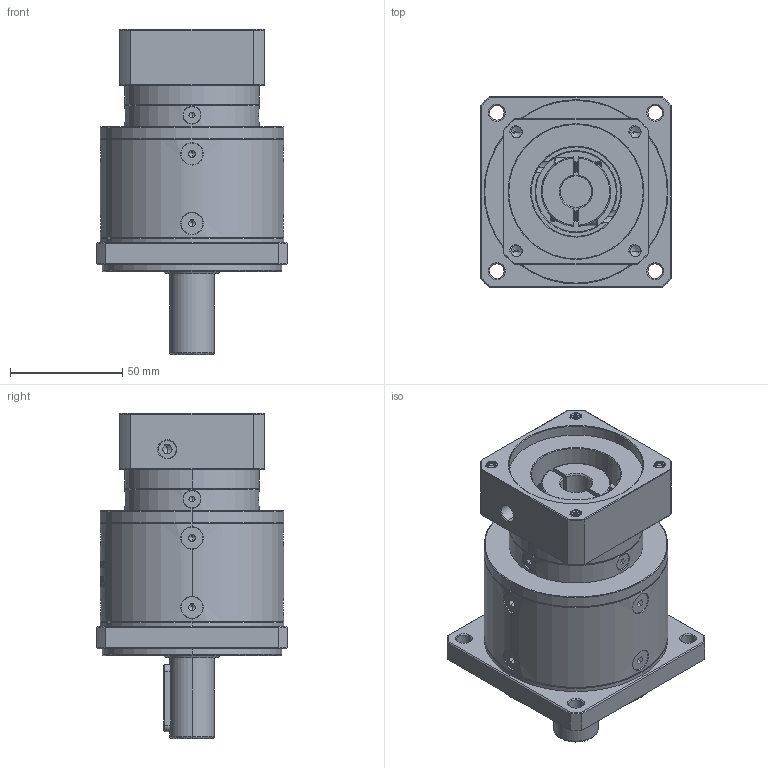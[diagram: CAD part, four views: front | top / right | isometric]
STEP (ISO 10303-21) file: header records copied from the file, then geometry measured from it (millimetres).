
FILE_DESCRIPTION (( 'STEP AP214' ), '1' );
FILE_NAME ('ZF80-D20-L2-14-60-75-M6.step', '2022-05-08T09:23:26', ( '' ), ( 'Microsoft' ), 'SwSTEP 2.0', 'SolidWorks 2016', '' );
FILE_SCHEMA (( 'AUTOMOTIVE_DESIGN' ));
Length unit declared in the file: millimetre
Products named in the file (1): ZF80-D20-L2-14-60-75-M6
Bounding box: 85 x 85 x 145 mm (x, y, z)
Volume: 481260 mm3; surface area: 70952.5 mm2
Topology: 18 solids, 18 shells, 2051 faces, 5353 edges, 3399 vertices
Faces by surface type: plane 953, cylinder 429, bspline 328, cone 327, torus 14
Entity records: 111109 total; most frequent: CARTESIAN_POINT 41723, ORIENTED_EDGE 10630, DIRECTION 8486, EDGE_CURVE 5315, VERTEX_POINT 3399, LINE 2868, VECTOR 2868, AXIS2_PLACEMENT_3D 2809
